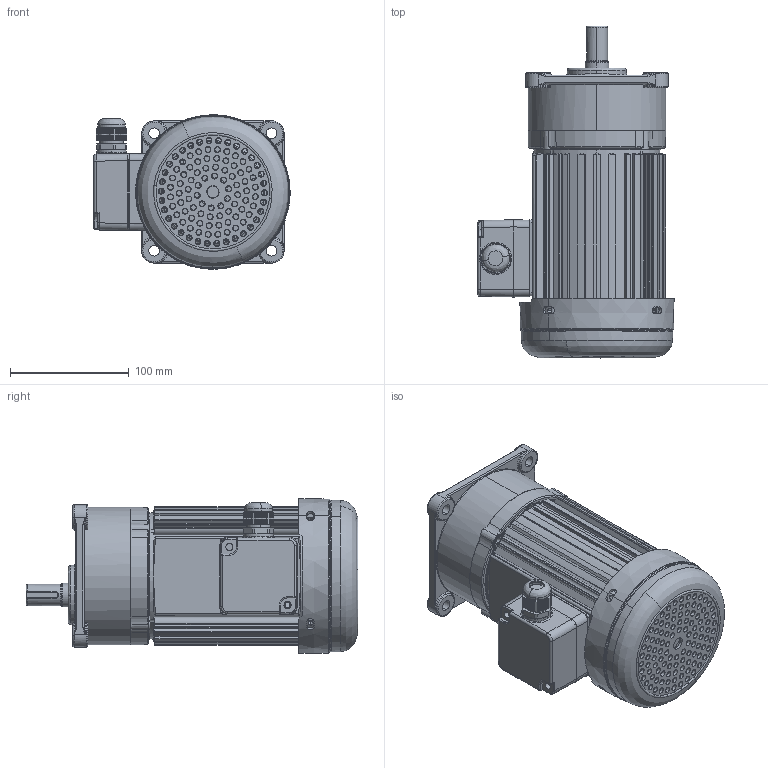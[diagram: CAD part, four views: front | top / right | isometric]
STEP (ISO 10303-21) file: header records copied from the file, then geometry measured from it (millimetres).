
FILE_DESCRIPTION (( 'STEP AP203' ), '1' );
FILE_NAME ('200W配1#立式.STEP', '2019-06-14T02:15:31', ( '微软中国' ), ( '微软用户' ), 'SwSTEP 2.0', 'SolidWorks 2012', '' );
FILE_SCHEMA (( 'CONFIG_CONTROL_DESIGN' ));
Length unit declared in the file: millimetre
Products named in the file (10): 200W 儂褲2; 1#蕾宒熬厒ん; 坶踡ん 蚾饜; 苤諉盄碟 裔; 苤諉盄碟釱; 釱菜; 100W瑞欶; 100W綴傷裔 2_25; 1xgx; 200W饜1#蕾宒
Assembly tree (9 placements, depth 2):
  200W饜1#蕾宒
    1xgx
    100W綴傷裔 2_25
    100W瑞欶
    釱菜
    苤諉盄碟釱
    苤諉盄碟 裔
    坶踡ん 蚾饜
    1#蕾宒熬厒ん
    200W 儂褲2
Bounding box: 165.7 x 279.87 x 130.48 mm (x, y, z)
Volume: 1008282.5 mm3; surface area: 389367.6 mm2
Topology: 6 solids, 10 shells, 2507 faces, 6488 edges, 4040 vertices
Faces by surface type: cylinder 750, bspline 711, plane 583, torus 217, cone 156, sphere 90
Entity records: 115419 total; most frequent: CARTESIAN_POINT 58769, ORIENTED_EDGE 12856, DIRECTION 9739, EDGE_CURVE 6458, VERTEX_POINT 4040, AXIS2_PLACEMENT_3D 3853, EDGE_LOOP 2883, ADVANCED_FACE 2507
